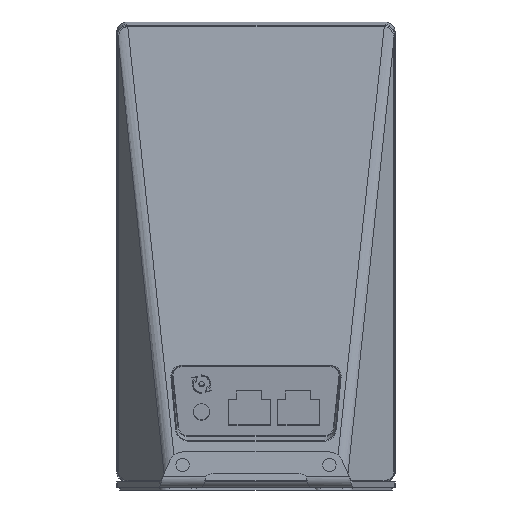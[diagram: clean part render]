
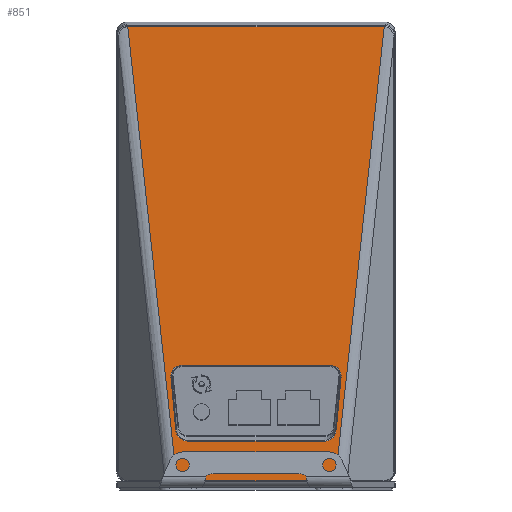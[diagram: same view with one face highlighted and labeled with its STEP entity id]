
A CAD part, front view. The second image highlights one B-rep face of the part: STEP entity #851.
In plain terms, the highlighted planar face has unit normal (0, -1, 0.011).
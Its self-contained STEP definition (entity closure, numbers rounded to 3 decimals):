
#156=B_SPLINE_CURVE_WITH_KNOTS('',3,(#9226,#9227,#9228,#9229),
 .UNSPECIFIED.,.F.,.F.,(4,4),(0.,1.),.UNSPECIFIED.);
#157=B_SPLINE_CURVE_WITH_KNOTS('',3,(#9232,#9233,#9234,#9235),
 .UNSPECIFIED.,.F.,.F.,(4,4),(0.,1.),.UNSPECIFIED.);
#158=B_SPLINE_CURVE_WITH_KNOTS('',3,(#9237,#9238,#9239,#9240),
 .UNSPECIFIED.,.F.,.F.,(4,4),(0.,1.),.UNSPECIFIED.);
#159=B_SPLINE_CURVE_WITH_KNOTS('',3,(#9242,#9243,#9244,#9245),
 .UNSPECIFIED.,.F.,.F.,(4,4),(0.,1.),.UNSPECIFIED.);
#231=FACE_BOUND('',#1577,.T.);
#232=FACE_BOUND('',#1578,.T.);
#340=ELLIPSE('',#5581,3.693,3.65);
#341=ELLIPSE('',#5582,3.443,3.404);
#342=ELLIPSE('',#5583,3.443,3.404);
#343=ELLIPSE('',#5584,3.693,3.65);
#851=ADVANCED_FACE('',(#231,#232),#1059,.T.);
#1059=PLANE('',#5585);
#1577=EDGE_LOOP('',(#2474,#2475,#2476,#2477,#2478,#2479,#2480,#2481));
#1578=EDGE_LOOP('',(#2482,#2483,#2484,#2485));
#2474=ORIENTED_EDGE('',*,*,#4168,.T.);
#2475=ORIENTED_EDGE('',*,*,#4169,.T.);
#2476=ORIENTED_EDGE('',*,*,#4170,.T.);
#2477=ORIENTED_EDGE('',*,*,#4171,.T.);
#2478=ORIENTED_EDGE('',*,*,#4172,.T.);
#2479=ORIENTED_EDGE('',*,*,#4173,.T.);
#2480=ORIENTED_EDGE('',*,*,#4174,.T.);
#2481=ORIENTED_EDGE('',*,*,#4175,.T.);
#2482=ORIENTED_EDGE('',*,*,#4176,.F.);
#2483=ORIENTED_EDGE('',*,*,#4177,.F.);
#2484=ORIENTED_EDGE('',*,*,#4178,.T.);
#2485=ORIENTED_EDGE('',*,*,#4179,.T.);
#3537=VERTEX_POINT('',#9211);
#3538=VERTEX_POINT('',#9212);
#3539=VERTEX_POINT('',#9214);
#3540=VERTEX_POINT('',#9216);
#3541=VERTEX_POINT('',#9218);
#3542=VERTEX_POINT('',#9220);
#3543=VERTEX_POINT('',#9222);
#3544=VERTEX_POINT('',#9224);
#3545=VERTEX_POINT('',#9230);
#3546=VERTEX_POINT('',#9231);
#3547=VERTEX_POINT('',#9236);
#3548=VERTEX_POINT('',#9241);
#4168=EDGE_CURVE('',#3537,#3538,#4742,.T.);
#4169=EDGE_CURVE('',#3538,#3539,#340,.T.);
#4170=EDGE_CURVE('',#3539,#3540,#4743,.T.);
#4171=EDGE_CURVE('',#3540,#3541,#341,.T.);
#4172=EDGE_CURVE('',#3541,#3542,#4744,.T.);
#4173=EDGE_CURVE('',#3542,#3543,#342,.T.);
#4174=EDGE_CURVE('',#3543,#3544,#4745,.T.);
#4175=EDGE_CURVE('',#3544,#3537,#343,.T.);
#4176=EDGE_CURVE('',#3545,#3546,#156,.T.);
#4177=EDGE_CURVE('',#3547,#3545,#157,.T.);
#4178=EDGE_CURVE('',#3547,#3548,#158,.T.);
#4179=EDGE_CURVE('',#3548,#3546,#159,.T.);
#4742=LINE('',#9210,#5130);
#4743=LINE('',#9215,#5131);
#4744=LINE('',#9219,#5132);
#4745=LINE('',#9223,#5133);
#5130=VECTOR('',#6557,1.);
#5131=VECTOR('',#6560,1.);
#5132=VECTOR('',#6563,1.);
#5133=VECTOR('',#6566,1.);
#5581=AXIS2_PLACEMENT_3D('',#9213,#6558,#6559);
#5582=AXIS2_PLACEMENT_3D('',#9217,#6561,#6562);
#5583=AXIS2_PLACEMENT_3D('',#9221,#6564,#6565);
#5584=AXIS2_PLACEMENT_3D('',#9225,#6567,#6568);
#5585=AXIS2_PLACEMENT_3D('',#9246,#6569,#6570);
#6557=DIRECTION('',(-1.,0.,0.));
#6558=DIRECTION('',(0.,1.,-0.011));
#6559=DIRECTION('',(0.,-0.011,-1.));
#6560=DIRECTION('',(-0.092,0.011,0.996));
#6561=DIRECTION('',(0.,1.,-0.011));
#6562=DIRECTION('',(0.,-0.011,-1.));
#6563=DIRECTION('',(1.,0.,0.));
#6564=DIRECTION('',(0.,1.,-0.011));
#6565=DIRECTION('',(0.,-0.011,-1.));
#6566=DIRECTION('',(-0.092,-0.011,-0.996));
#6567=DIRECTION('',(0.,1.,-0.011));
#6568=DIRECTION('',(0.,-0.011,-1.));
#6569=DIRECTION('',(0.,-1.,0.011));
#6570=DIRECTION('',(-0.994,0.001,0.107));
#9210=CARTESIAN_POINT('',(2.853,-12.119,12.173));
#9211=CARTESIAN_POINT('',(20.445,-12.119,12.173));
#9212=CARTESIAN_POINT('',(-20.445,-12.119,12.173));
#9213=CARTESIAN_POINT('',(-20.445,-12.08,15.865));
#9214=CARTESIAN_POINT('',(-24.079,-12.083,15.523));
#9215=CARTESIAN_POINT('',(-27.433,-11.692,51.961));
#9216=CARTESIAN_POINT('',(-25.525,-11.915,31.226));
#9217=CARTESIAN_POINT('',(-22.136,-11.911,31.545));
#9218=CARTESIAN_POINT('',(-22.136,-11.874,34.988));
#9219=CARTESIAN_POINT('',(2.853,-11.874,34.988));
#9220=CARTESIAN_POINT('',(22.136,-11.874,34.988));
#9221=CARTESIAN_POINT('',(22.136,-11.911,31.545));
#9222=CARTESIAN_POINT('',(25.525,-11.915,31.226));
#9223=CARTESIAN_POINT('',(27.481,-11.687,52.482));
#9224=CARTESIAN_POINT('',(24.079,-12.083,15.523));
#9225=CARTESIAN_POINT('',(20.445,-12.08,15.865));
#9226=CARTESIAN_POINT('',(-38.473,-10.784,136.496));
#9227=CARTESIAN_POINT('',(-12.824,-10.784,136.496));
#9228=CARTESIAN_POINT('',(12.824,-10.784,136.496));
#9229=CARTESIAN_POINT('',(38.473,-10.784,136.496));
#9230=CARTESIAN_POINT('',(-38.473,-10.784,136.496));
#9231=CARTESIAN_POINT('',(38.473,-10.784,136.496));
#9232=CARTESIAN_POINT('',(-23.776,-12.247,0.25));
#9233=CARTESIAN_POINT('',(-28.675,-11.76,45.665));
#9234=CARTESIAN_POINT('',(-33.574,-11.272,91.08));
#9235=CARTESIAN_POINT('',(-38.473,-10.784,136.496));
#9236=CARTESIAN_POINT('',(-23.776,-12.247,0.25));
#9237=CARTESIAN_POINT('',(-23.776,-12.247,0.25));
#9238=CARTESIAN_POINT('',(-7.925,-12.247,0.25));
#9239=CARTESIAN_POINT('',(7.925,-12.247,0.25));
#9240=CARTESIAN_POINT('',(23.776,-12.247,0.25));
#9241=CARTESIAN_POINT('',(23.776,-12.247,0.25));
#9242=CARTESIAN_POINT('',(23.776,-12.247,0.25));
#9243=CARTESIAN_POINT('',(28.675,-11.76,45.665));
#9244=CARTESIAN_POINT('',(33.574,-11.272,91.08));
#9245=CARTESIAN_POINT('',(38.473,-10.784,136.496));
#9246=CARTESIAN_POINT('',(2.853,-11.662,54.748));
